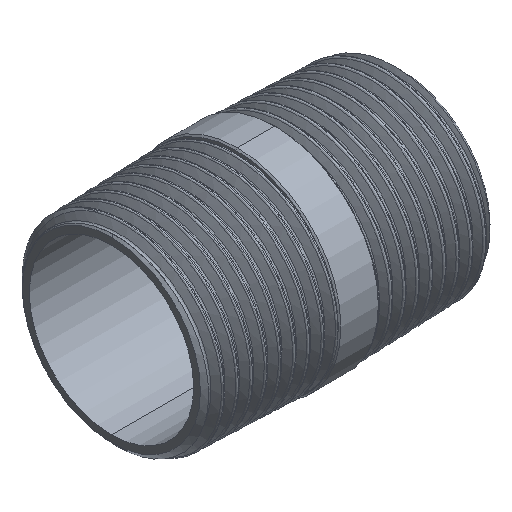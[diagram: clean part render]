
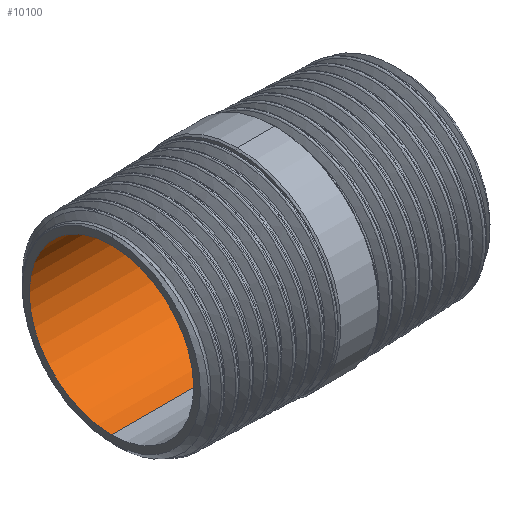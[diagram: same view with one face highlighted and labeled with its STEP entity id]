
A CAD part, isometric view. The second image highlights one B-rep face of the part: STEP entity #10100.
In plain terms, the highlighted cylindrical face has radius 10.8 mm (diameter 21.6 mm), a partial arc.
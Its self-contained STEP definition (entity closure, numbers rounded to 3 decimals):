
#260 = AXIS2_PLACEMENT_3D ( 'NONE', #487, #10714, #1618 ) ;
#362 = EDGE_CURVE ( 'NONE', #12420, #7585, #6632, .T. ) ;
#487 = CARTESIAN_POINT ( 'NONE',  ( 16.34, 0., 0. ) ) ;
#1462 = CARTESIAN_POINT ( 'NONE',  ( -21.66, 0., 0. ) ) ;
#1618 = DIRECTION ( 'NONE',  ( 0., 0., -1. ) ) ;
#2067 = VERTEX_POINT ( 'NONE', #10471 ) ;
#3247 = AXIS2_PLACEMENT_3D ( 'NONE', #1462, #6354, #12632 ) ;
#3670 = FACE_OUTER_BOUND ( 'NONE', #7518, .T. ) ;
#3694 = EDGE_CURVE ( 'NONE', #2067, #6345, #7462, .T. ) ;
#3924 = ORIENTED_EDGE ( 'NONE', *, *, #3694, .F. ) ;
#4505 = VECTOR ( 'NONE', #11674, 1000. ) ;
#4891 = DIRECTION ( 'NONE',  ( 0., 0., 1. ) ) ;
#5273 = EDGE_CURVE ( 'NONE', #2067, #12420, #8578, .T. ) ;
#5600 = CARTESIAN_POINT ( 'NONE',  ( -21.66, 0., 10.8 ) ) ;
#5657 = ORIENTED_EDGE ( 'NONE', *, *, #362, .T. ) ;
#6224 = CARTESIAN_POINT ( 'NONE',  ( -21.66, 0., -10.8 ) ) ;
#6345 = VERTEX_POINT ( 'NONE', #6224 ) ;
#6354 = DIRECTION ( 'NONE',  ( 1., 0., 0. ) ) ;
#6588 = CARTESIAN_POINT ( 'NONE',  ( 16.34, 0., -10.8 ) ) ;
#6632 = LINE ( 'NONE', #9920, #10507 ) ;
#6834 = DIRECTION ( 'NONE',  ( -1., 0., 0. ) ) ;
#7462 = LINE ( 'NONE', #6588, #4505 ) ;
#7518 = EDGE_LOOP ( 'NONE', ( #3924, #9349, #5657, #12024 ) ) ;
#7585 = VERTEX_POINT ( 'NONE', #5600 ) ;
#7762 = CYLINDRICAL_SURFACE ( 'NONE', #12239, 10.8 ) ;
#8447 = EDGE_CURVE ( 'NONE', #6345, #7585, #12858, .T. ) ;
#8578 = CIRCLE ( 'NONE', #260, 10.8 ) ;
#9349 = ORIENTED_EDGE ( 'NONE', *, *, #5273, .T. ) ;
#9920 = CARTESIAN_POINT ( 'NONE',  ( 16.34, 0., 10.8 ) ) ;
#9984 = CARTESIAN_POINT ( 'NONE',  ( 16.34, 0., 0. ) ) ;
#10044 = CARTESIAN_POINT ( 'NONE',  ( 16.34, 0., 10.8 ) ) ;
#10100 = ADVANCED_FACE ( 'NONE', ( #3670 ), #7762, .F. ) ;
#10471 = CARTESIAN_POINT ( 'NONE',  ( 16.34, 0., -10.8 ) ) ;
#10507 = VECTOR ( 'NONE', #6834, 1000. ) ;
#10714 = DIRECTION ( 'NONE',  ( 1., 0., 0. ) ) ;
#11674 = DIRECTION ( 'NONE',  ( -1., 0., 0. ) ) ;
#11843 = DIRECTION ( 'NONE',  ( -1., 0., 0. ) ) ;
#12024 = ORIENTED_EDGE ( 'NONE', *, *, #8447, .F. ) ;
#12239 = AXIS2_PLACEMENT_3D ( 'NONE', #9984, #11843, #4891 ) ;
#12420 = VERTEX_POINT ( 'NONE', #10044 ) ;
#12632 = DIRECTION ( 'NONE',  ( 0., 0., -1. ) ) ;
#12858 = CIRCLE ( 'NONE', #3247, 10.8 ) ;
